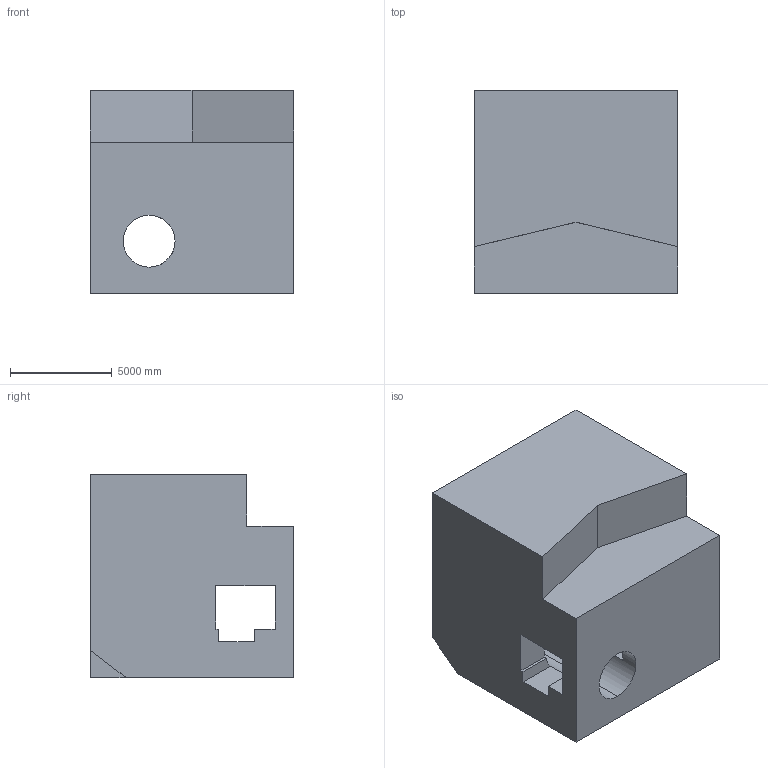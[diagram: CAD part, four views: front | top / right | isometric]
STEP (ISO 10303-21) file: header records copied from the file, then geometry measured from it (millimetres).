
FILE_DESCRIPTION (( 'STEP AP203' ), '1' );
FILE_NAME ('291.STEP', '2022-09-07T12:39:32', ( 'user' ), ( '' ), 'SwSTEP 2.0', 'SolidWorks 2021', '' );
FILE_SCHEMA (( 'CONFIG_CONTROL_DESIGN' ));
Length unit declared in the file: centimetre
Products named in the file (1): 291
Bounding box: 10000 x 10000 x 10000 mm (x, y, z)
Volume: 805020399511.7 mm3; surface area: 721338600.8 mm2
Topology: 1 solids, 1 shells, 26 faces, 81 edges, 54 vertices
Faces by surface type: plane 24, cylinder 2
Entity records: 986 total; most frequent: CARTESIAN_POINT 168, ORIENTED_EDGE 162, DIRECTION 145, EDGE_CURVE 81, LINE 67, VECTOR 67, VERTEX_POINT 54, AXIS2_PLACEMENT_3D 39
